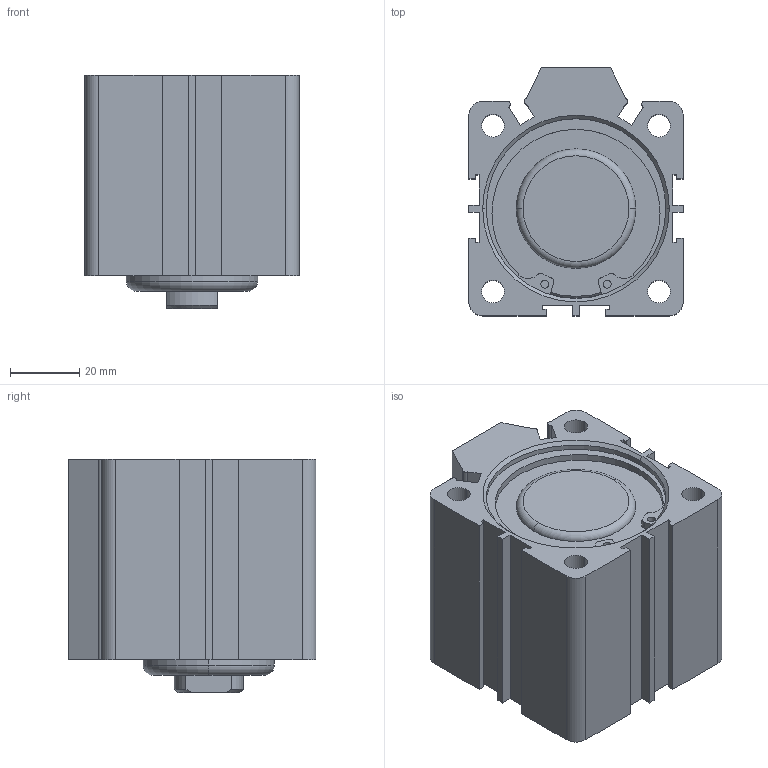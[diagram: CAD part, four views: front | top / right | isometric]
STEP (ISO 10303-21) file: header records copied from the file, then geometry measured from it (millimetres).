
FILE_DESCRIPTION (( 'STEP AP214' ), '1' );
FILE_NAME ('SDA_N_50_20_WEB.STEP', '2020-08-24T16:47:31', ( '' ), ( '' ), 'SwSTEP 2.0', 'SolidWorks 2018', '' );
FILE_SCHEMA (( 'AUTOMOTIVE_DESIGN' ));
Length unit declared in the file: millimetre
Products named in the file (6): basic internal retaining ring_am_B27.7M - 3BM1-52; SDA_N_50_MIL_WEB; SDA 50_BORU_WEB; SDA_N_50_20_WEB; SDA_N_50_BOGAZ_BURCU_VER_2; SDA_N_50_ARKAKAPAK
Assembly tree (6 placements, depth 2):
  SDA_N_50_20_WEB
    SDA 50_BORU_WEB
    SDA_N_50_ARKAKAPAK
    SDA_N_50_MIL_WEB
    SDA_N_50_BOGAZ_BURCU_VER_2
    basic internal retaining ring_am_B27.7M - 3BM1-52  x2
Bounding box: 62 x 71.7 x 67.5 mm (x, y, z)
Volume: 137591.6 mm3; surface area: 59495.5 mm2
Topology: 6 solids, 6 shells, 400 faces, 1059 edges, 693 vertices
Faces by surface type: plane 175, cylinder 106, bspline 81, cone 34, torus 4
Entity records: 17515 total; most frequent: CARTESIAN_POINT 6556, ORIENTED_EDGE 1976, DIRECTION 1628, EDGE_CURVE 988, VERTEX_POINT 647, VECTOR 598, LINE 598, AXIS2_PLACEMENT_3D 515
